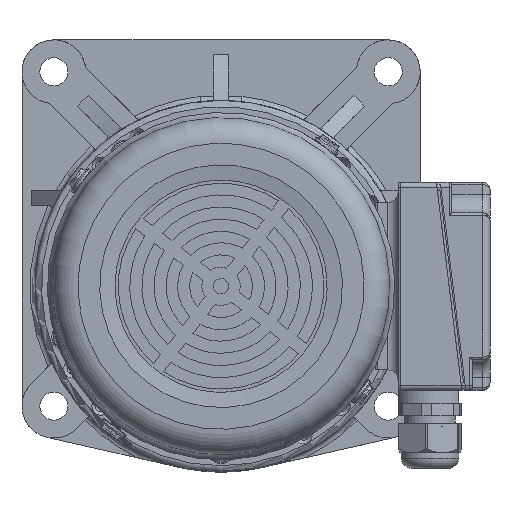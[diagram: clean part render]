
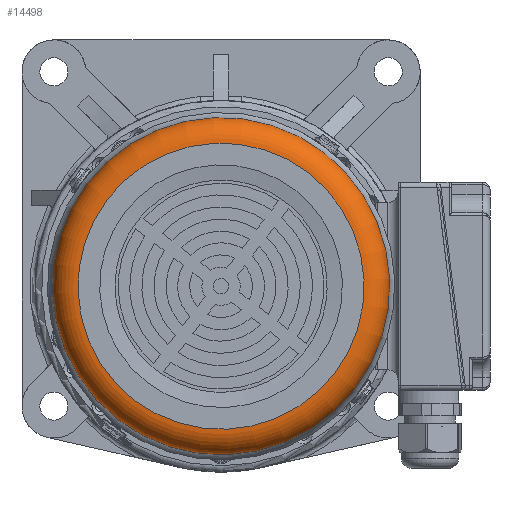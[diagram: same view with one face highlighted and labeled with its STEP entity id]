
A CAD part, left-side view. The second image highlights one B-rep face of the part: STEP entity #14498.
In plain terms, the highlighted toroidal (fillet/blend) face has major radius 56 mm and minor radius 10 mm.
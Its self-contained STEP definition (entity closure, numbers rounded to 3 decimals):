
#1511=TOROIDAL_SURFACE('',#59524,56.,10.);
#1742=FACE_BOUND('',#21146,.T.);
#1743=FACE_BOUND('',#21147,.T.);
#14498=ADVANCED_FACE('',(#1742,#1743),#1511,.T.);
#21146=EDGE_LOOP('',(#29850));
#21147=EDGE_LOOP('',(#29851));
#29850=ORIENTED_EDGE('',*,*,#49915,.T.);
#29851=ORIENTED_EDGE('',*,*,#48452,.F.);
#42699=VERTEX_POINT('',#80639);
#43666=VERTEX_POINT('',#86772);
#48452=EDGE_CURVE('',#42699,#42699,#56171,.T.);
#49915=EDGE_CURVE('',#43666,#43666,#56714,.T.);
#56171=CIRCLE('',#58524,56.);
#56714=CIRCLE('',#59523,66.);
#58524=AXIS2_PLACEMENT_3D('',#80638,#64824,#64825);
#59523=AXIS2_PLACEMENT_3D('',#86771,#67538,#67539);
#59524=AXIS2_PLACEMENT_3D('',#86773,#67540,#67541);
#64824=DIRECTION('',(-1.,0.,0.));
#64825=DIRECTION('',(0.,-0.609,0.793));
#67538=DIRECTION('',(-1.,0.,0.));
#67539=DIRECTION('',(0.,-0.609,0.793));
#67540=DIRECTION('',(-1.,0.,0.));
#67541=DIRECTION('',(0.,-0.609,0.793));
#80638=CARTESIAN_POINT('',(461.196,687.39,-682.425));
#80639=CARTESIAN_POINT('',(461.196,653.3,-637.997));
#86771=CARTESIAN_POINT('',(471.196,687.39,-682.425));
#86772=CARTESIAN_POINT('',(471.196,647.212,-630.064));
#86773=CARTESIAN_POINT('',(471.196,687.39,-682.425));
